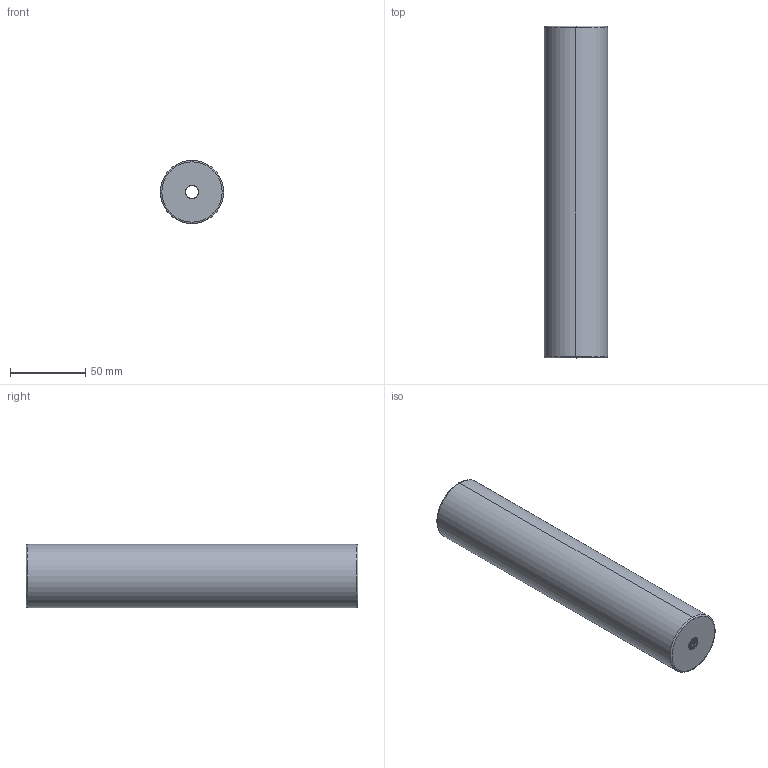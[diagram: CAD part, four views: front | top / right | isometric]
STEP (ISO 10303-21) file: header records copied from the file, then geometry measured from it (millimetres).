
FILE_DESCRIPTION( ( 'STEP AP203' ), '1' );
FILE_NAME( 'D:/Delta 3 D/D40/D40 - 42x220.step', '2002-12-31T23:15:39', ( ' ' ), ( ' ' ), 'XStep 1.0', ' ', ' ' );
FILE_SCHEMA( ( 'CONFIG_CONTROL_DESIGN' ) );
Length unit declared in the file: metre
Products named in the file (1): 1
Bounding box: 42 x 220 x 42 mm (x, y, z)
Volume: 127122.4 mm3; surface area: 53261.6 mm2
Topology: 1 solids, 1 shells, 60 faces, 159 edges, 102 vertices
Faces by surface type: revolution 45, bspline 15
Entity records: 4363 total; most frequent: CARTESIAN_POINT 3058, ORIENTED_EDGE 318, EDGE_CURVE 159, DIRECTION 148, B_SPLINE_CURVE_WITH_KNOTS 103, VERTEX_POINT 102, EDGE_LOOP 63, ADVANCED_FACE 60
